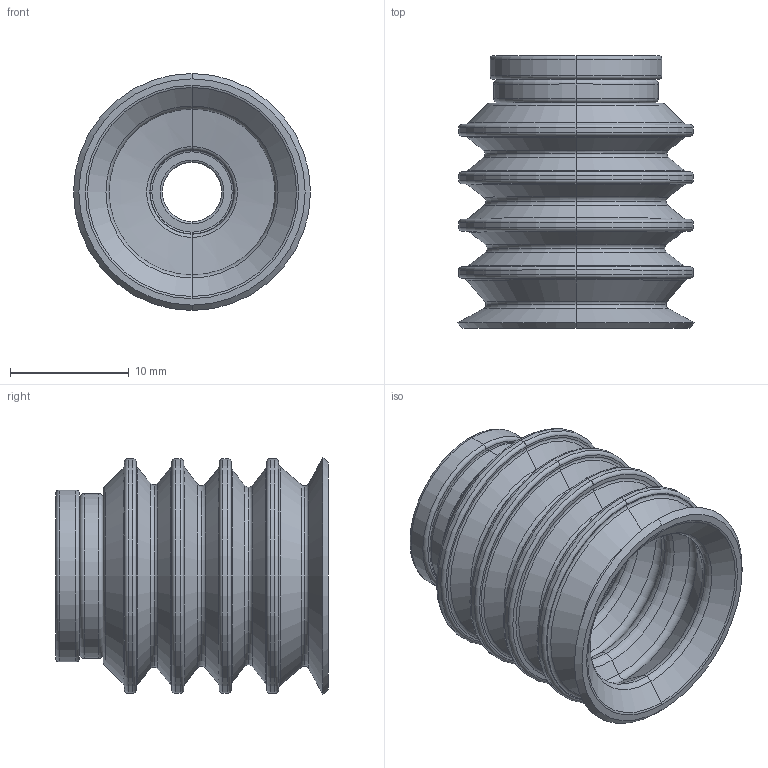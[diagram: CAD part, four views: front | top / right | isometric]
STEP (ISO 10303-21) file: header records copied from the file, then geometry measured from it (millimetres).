
FILE_DESCRIPTION (( 'STEP AP203' ), '1' );
FILE_NAME ('92_20--A.STEP', '2018-03-07T10:19:40', ( '' ), ( '' ), 'SwSTEP 2.0', 'SolidWorks 2016', '' );
FILE_SCHEMA (( 'CONFIG_CONTROL_DESIGN' ));
Length unit declared in the file: millimetre
Products named in the file (1): 92_20--A
Bounding box: 20 x 23 x 20 mm (x, y, z)
Volume: 1640.7 mm3; surface area: 3891.5 mm2
Topology: 2 solids, 2 shells, 176 faces, 352 edges, 192 vertices
Faces by surface type: torus 100, cone 40, cylinder 20, plane 16
Entity records: 4667 total; most frequent: DIRECTION 998, CARTESIAN_POINT 721, ORIENTED_EDGE 704, AXIS2_PLACEMENT_3D 469, EDGE_CURVE 352, CIRCLE 292, VERTEX_POINT 192, EDGE_LOOP 192
